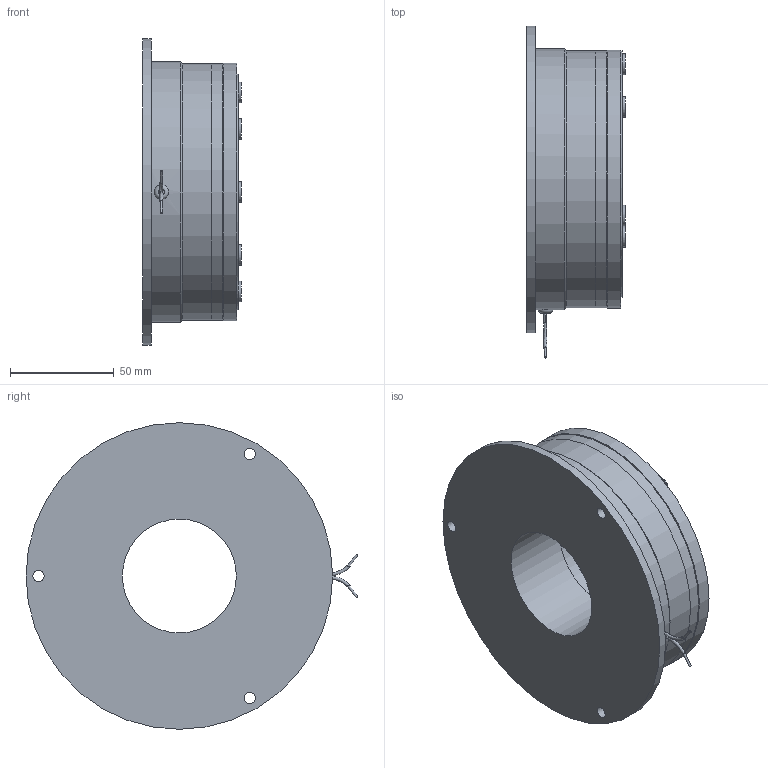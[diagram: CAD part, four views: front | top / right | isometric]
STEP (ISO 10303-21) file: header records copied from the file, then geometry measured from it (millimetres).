
FILE_DESCRIPTION(/* description */ (''),/* implementation_level */ '2;1');
FILE_NAME(/* name */ 'X:\INVENTOR\DISEGNI\08_Freni_Friz_Elettmag_Monodisco\08_28 EMFL_DF\EMFL_DF STEP\08_28_120_11 EMFL120_DF-B@STEP.stp',/* time_stamp */ '2018-04-23T15:57:14+02:00',/* author */ ('stefano'),/* organization */ (''),/* preprocessor_version */ 'ST-DEVELOPER v17',/* originating_system */ 'Autodesk Inventor 2018',/* authorisation */ '');
FILE_SCHEMA (('AUTOMOTIVE_DESIGN { 1 0 10303 214 3 1 1 }'));
Length unit declared in the file: millimetre
Products named in the file (1): 08_28_120_11 EMFL120_DF-B_Substitute_1
Bounding box: 47.5 x 160.22 x 148 mm (x, y, z)
Volume: 448955.5 mm3; surface area: 94767.4 mm2
Topology: 3 solids, 3 shells, 229 faces, 671 edges, 451 vertices
Faces by surface type: cylinder 153, plane 59, cone 14, bspline 2, torus 1
Full cylindrical faces by diameter (mm): 1.154 x2, 1.5 x1, 2.2 x6, 5.5 x3, 6 x1, 6.1 x3, 7.5 x6, 10 x6, 55 x2, 59 x1, 77 x1, 110.5 x1, 124 x2, 124.5 x1, 126 x1, 148 x1
Entity records: 8613 total; most frequent: DIRECTION 1614, CARTESIAN_POINT 1570, ORIENTED_EDGE 1344, AXIS2_PLACEMENT_3D 721, EDGE_CURVE 672, CIRCLE 493, VERTEX_POINT 452, EDGE_LOOP 299
